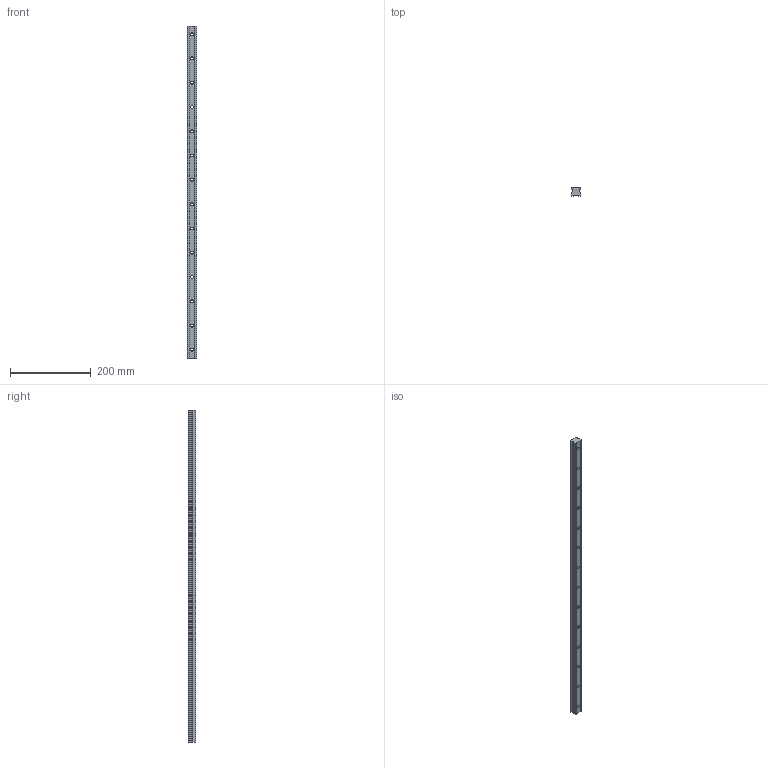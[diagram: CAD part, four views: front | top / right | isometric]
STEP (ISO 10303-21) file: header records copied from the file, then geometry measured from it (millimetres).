
FILE_DESCRIPTION (( 'STEP AP203' ), '1' );
FILE_NAME ('L1016.BL25-0820.step', '2019-06-12T12:05:49', ( '' ), ( '' ), 'SwSTEP 2.0', 'SolidWorks 2017', '' );
FILE_SCHEMA (( 'CONFIG_CONTROL_DESIGN' ));
Length unit declared in the file: millimetre
Products named in the file (1): L1016.BL25-0820
Bounding box: 23 x 19.2 x 820 mm (x, y, z)
Volume: 301891.9 mm3; surface area: 78251.1 mm2
Topology: 1 solids, 1 shells, 96 faces, 240 edges, 160 vertices
Faces by surface type: cylinder 60, plane 36
Entity records: 3057 total; most frequent: DIRECTION 554, CARTESIAN_POINT 497, ORIENTED_EDGE 480, EDGE_CURVE 240, AXIS2_PLACEMENT_3D 217, VERTEX_POINT 160, EDGE_LOOP 138, CIRCLE 120
